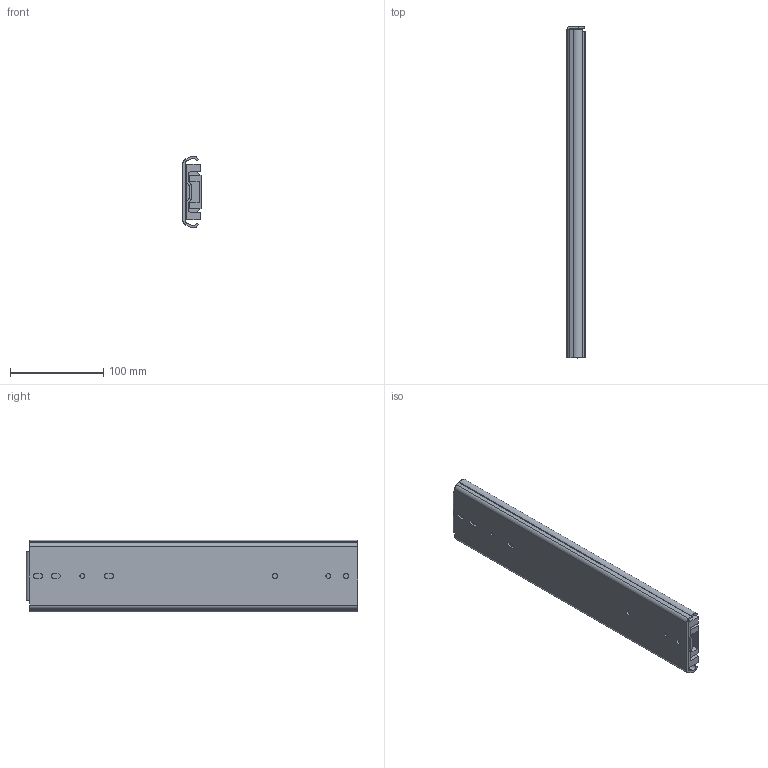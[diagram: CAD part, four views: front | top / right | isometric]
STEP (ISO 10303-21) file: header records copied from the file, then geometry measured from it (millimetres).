
FILE_DESCRIPTION(/* description */ ('Unknown'),/* implementation_level */ '2;1');
FILE_NAME(/* name */ '76J01-14 close',/* time_stamp */ '2024-07-26T15:20:18+08:00',/* author */ ('Unknown'),/* organization */ ('Unknown'),/* preprocessor_version */ 'ST-DEVELOPER v18.104',/* originating_system */ 'Solid Edge',/* authorisation */ 'Unknown');
FILE_SCHEMA (('AUTOMOTIVE_DESIGN {1 0 10303 214 3 1 1}'));
Length unit declared in the file: millimetre
Products named in the file (4): 76J01-14 close; 76J01 14 inch ､ｺﾐCｲ; 76J01 14 吋
Assembly tree (3 placements, depth 2):
  76J01-14 close
    76J01 14 inch ､ｺﾐCｲ
    76J01 14 吋
    76J01 14 吋
Bounding box: 19.3 x 355.6 x 76.76 mm (x, y, z)
Volume: 275774.9 mm3; surface area: 173127.2 mm2
Topology: 3 solids, 3 shells, 161 faces, 484 edges, 325 vertices
Faces by surface type: plane 92, cylinder 69
Full cylindrical faces by diameter (mm): 5.2 x7
Entity records: 5893 total; most frequent: CARTESIAN_POINT 953, ORIENTED_EDGE 940, DIRECTION 940, EDGE_CURVE 470, LINE 330, VECTOR 330, VERTEX_POINT 318, AXIS2_PLACEMENT_3D 305
